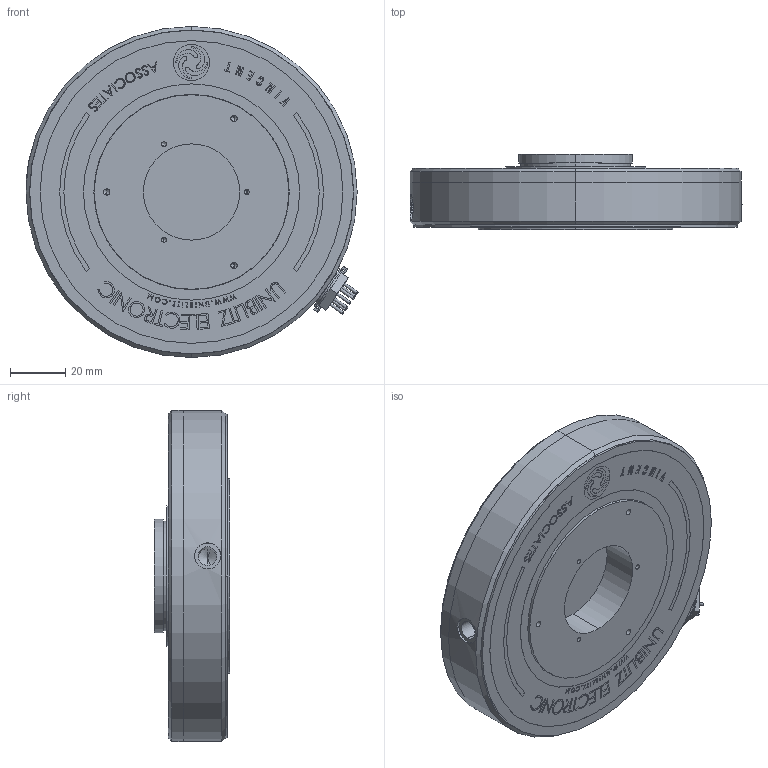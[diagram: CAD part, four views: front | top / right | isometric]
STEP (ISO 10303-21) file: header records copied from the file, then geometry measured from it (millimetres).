
FILE_DESCRIPTION (( 'STEP AP214' ), '1' );
FILE_NAME ('VS35 HOUSE dumb.STEP', '2013-07-17T18:09:34', ( 'helen' ), ( 'Microsoft' ), 'SwSTEP 2.0', 'SolidWorks 2010', '' );
FILE_SCHEMA (( 'AUTOMOTIVE_DESIGN' ));
Length unit declared in the file: inch
Products named in the file (1): VS35 HOUSE dumb
Bounding box: 120.46 x 27.3 x 120.14 mm (x, y, z)
Volume: 140891.4 mm3; surface area: 79021 mm2
Topology: 9 solids, 9 shells, 1520 faces, 3904 edges, 2490 vertices
Faces by surface type: plane 616, cylinder 367, cone 346, bspline 159, torus 24, sphere 8
Entity records: 80481 total; most frequent: CARTESIAN_POINT 23833, ORIENTED_EDGE 7752, DIRECTION 7524, EDGE_CURVE 3876, AXIS2_PLACEMENT_3D 2662, VERTEX_POINT 2490, VECTOR 2200, LINE 2200
